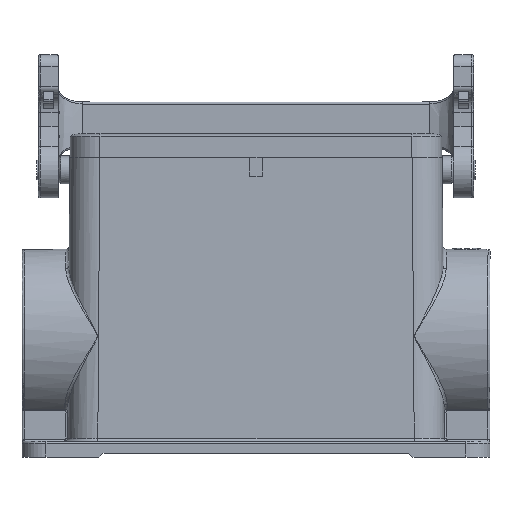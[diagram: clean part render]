
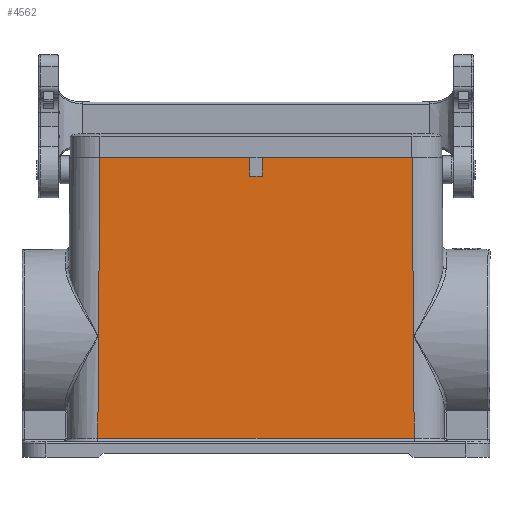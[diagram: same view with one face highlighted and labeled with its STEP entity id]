
A CAD part, front view. The second image highlights one B-rep face of the part: STEP entity #4562.
In plain terms, the highlighted planar face has unit normal (0, -1, 0.011).
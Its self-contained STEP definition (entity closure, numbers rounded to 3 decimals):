
#4562=ADVANCED_FACE('',(#5195),#4810,.T.);
#4810=PLANE('',#12387);
#5195=FACE_OUTER_BOUND('',#5710,.T.);
#5710=EDGE_LOOP('',(#7752,#7753,#7754,#7755,#7756,#7757,#7758,#7759));
#7752=ORIENTED_EDGE('',*,*,#10078,.T.);
#7753=ORIENTED_EDGE('',*,*,#10091,.T.);
#7754=ORIENTED_EDGE('',*,*,#10088,.T.);
#7755=ORIENTED_EDGE('',*,*,#10092,.T.);
#7756=ORIENTED_EDGE('',*,*,#10093,.F.);
#7757=ORIENTED_EDGE('',*,*,#10076,.T.);
#7758=ORIENTED_EDGE('',*,*,#10094,.F.);
#7759=ORIENTED_EDGE('',*,*,#10095,.T.);
#8956=VERTEX_POINT('',#21174);
#8958=VERTEX_POINT('',#21178);
#8959=VERTEX_POINT('',#21182);
#8960=VERTEX_POINT('',#21184);
#8965=VERTEX_POINT('',#21203);
#8966=VERTEX_POINT('',#21204);
#8967=VERTEX_POINT('',#21210);
#8968=VERTEX_POINT('',#21213);
#10076=EDGE_CURVE('',#8956,#8958,#10694,.T.);
#10078=EDGE_CURVE('',#8960,#8959,#10695,.T.);
#10088=EDGE_CURVE('',#8965,#8966,#10700,.T.);
#10091=EDGE_CURVE('',#8959,#8965,#10701,.T.);
#10092=EDGE_CURVE('',#8966,#8967,#10702,.T.);
#10093=EDGE_CURVE('',#8956,#8967,#10703,.T.);
#10094=EDGE_CURVE('',#8968,#8958,#10704,.T.);
#10095=EDGE_CURVE('',#8968,#8960,#10705,.T.);
#10694=LINE('',#21179,#11202);
#10695=LINE('',#21183,#11203);
#10700=LINE('',#21202,#11208);
#10701=LINE('',#21208,#11209);
#10702=LINE('',#21209,#11210);
#10703=LINE('',#21211,#11211);
#10704=LINE('',#21212,#11212);
#10705=LINE('',#21214,#11213);
#11202=VECTOR('',#14155,1.);
#11203=VECTOR('',#14160,1.);
#11208=VECTOR('',#14183,1.);
#11209=VECTOR('',#14190,1.);
#11210=VECTOR('',#14191,1.);
#11211=VECTOR('',#14192,1.);
#11212=VECTOR('',#14193,1.);
#11213=VECTOR('',#14194,1.);
#12387=AXIS2_PLACEMENT_3D('',#21215,#14195,#14196);
#14155=DIRECTION('',(-1.,0.,0.));
#14160=DIRECTION('',(-0.007,-0.011,-1.));
#14183=DIRECTION('',(-0.007,0.011,1.));
#14190=DIRECTION('',(1.,0.,0.));
#14191=DIRECTION('',(-1.,0.,0.));
#14192=DIRECTION('',(0.,0.011,1.));
#14193=DIRECTION('',(0.,-0.011,-1.));
#14194=DIRECTION('',(-1.,0.,0.));
#14195=DIRECTION('',(0.,-1.,0.011));
#14196=DIRECTION('',(0.,-0.011,-1.));
#21174=CARTESIAN_POINT('',(1.6,-21.553,1.));
#21178=CARTESIAN_POINT('',(-1.6,-21.553,1.));
#21179=CARTESIAN_POINT('',(57.,-21.553,1.));
#21182=CARTESIAN_POINT('',(-39.545,-22.291,-64.459));
#21183=CARTESIAN_POINT('',(-39.546,-22.292,-64.57));
#21184=CARTESIAN_POINT('',(-39.05,-21.5,5.7));
#21202=CARTESIAN_POINT('',(39.551,-22.301,-65.373));
#21203=CARTESIAN_POINT('',(39.545,-22.291,-64.459));
#21204=CARTESIAN_POINT('',(39.05,-21.5,5.7));
#21208=CARTESIAN_POINT('',(39.55,-22.291,-64.459));
#21209=CARTESIAN_POINT('',(57.,-21.5,5.7));
#21210=CARTESIAN_POINT('',(1.6,-21.5,5.7));
#21211=CARTESIAN_POINT('',(1.6,-22.3,-65.25));
#21212=CARTESIAN_POINT('',(-1.6,-22.3,-65.25));
#21213=CARTESIAN_POINT('',(-1.6,-21.5,5.7));
#21214=CARTESIAN_POINT('',(57.,-21.5,5.7));
#21215=CARTESIAN_POINT('',(57.,-22.3,-65.25));
